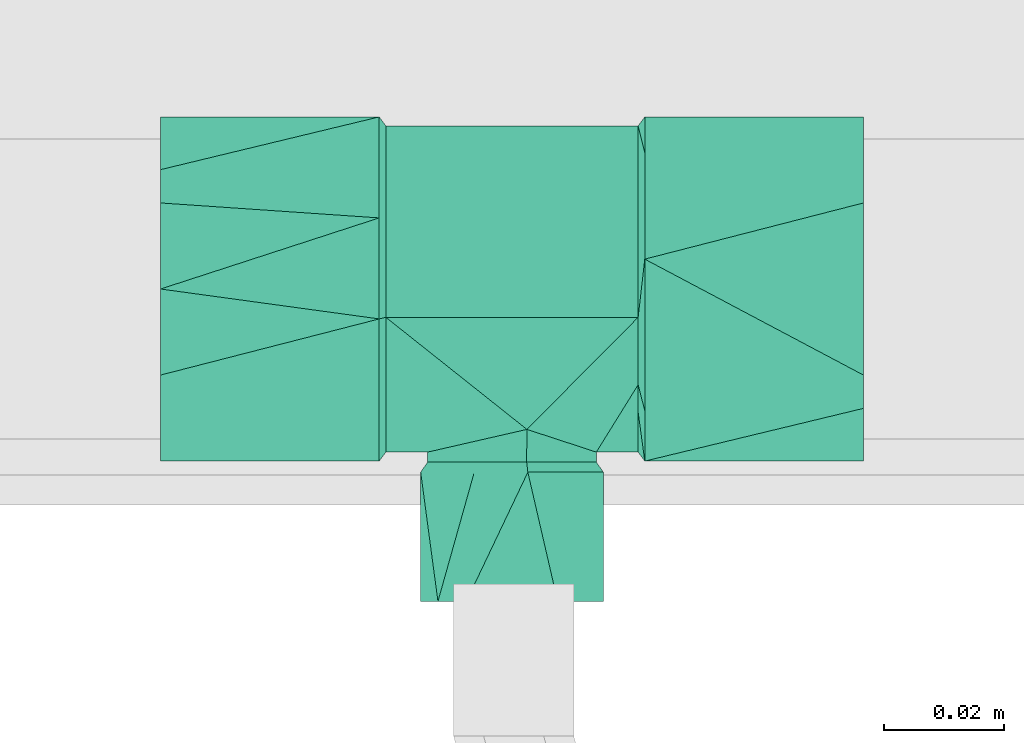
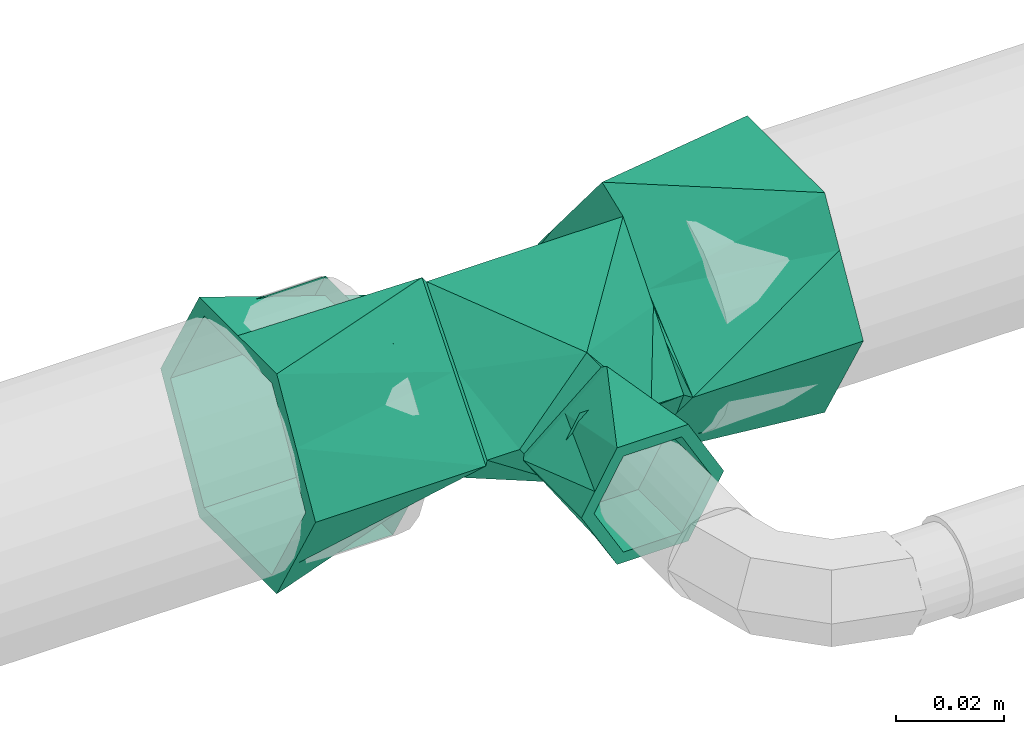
# One storey, part 75 of 166: 1 flow fitting.
"""IFC2X3 building model written with IfcOpenShell, lengths in metres."""

from ifc_helpers import new_model, entity, si_unit, converted_unit, direction, frame, origin, place, context, subcontext, project, spatial, faceted_brep, source, transform, mapped, material, type_object, type_shapes, element, save


model = new_model("IFC2X3")

# Units and contexts
model_context = context("Model", 3, precision=1e-05, world=origin(), true_north=direction((6.123233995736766e-17, 1.0)))
body_context = subcontext(model_context, "Body", "Model", "MODEL_VIEW")
ifc_project = project(units=[si_unit("LENGTHUNIT", "METRE"), converted_unit("PLANEANGLEUNIT", "DEGREE", entity("IfcPlaneAngleMeasure", 0.017453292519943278), si_unit("PLANEANGLEUNIT", "RADIAN"), dimensions=[0, 0, 0, 0, 0, 0, 0]), si_unit("AREAUNIT", "SQUARE_METRE")], contexts=[model_context])

# Site, building, storey
site_placement = place(None, origin())
site = spatial("IfcSite", under=ifc_project, at=site_placement, Name="Default", CompositionType="ELEMENT")
building_placement = place(site_placement, origin())
building = spatial("IfcBuilding", under=site, at=building_placement, Name="CASA DE ACOLHIDA PARA IDOSOS", CompositionType="ELEMENT")
storey_placement = place(building_placement, frame((0.0, 0.0, -1.7499999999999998)))
storey = spatial("IfcBuildingStorey", under=building, at=storey_placement, Name="IMPLANTAÇÃO DRENAGEM", CompositionType="ELEMENT", Elevation=-1.7499999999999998)

# Flow fitting
ifc_material = material(Name="PVC Branco")
pipe_fitting_type = type_object("IfcPipeFittingType", Name="AF_Roscavel_Te_Reducao:Standard", PredefinedType="NOTDEFINED", material=ifc_material)
shared_shape = source(origin(), body_context, "Body", "Brep", [
    faceted_brep([(-0.022099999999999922, 0.022730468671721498, -0.007053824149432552), (-0.022099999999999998, 0.028649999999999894, 0.0), (-0.021, 0.027149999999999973, 0.0), (-0.02099999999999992, 0.019184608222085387, -0.006684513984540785), (-0.020999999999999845, 0.011219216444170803, -0.013369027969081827), (-0.022099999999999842, 0.0168109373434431, -0.014107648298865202), (-0.020999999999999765, 0.0032538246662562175, -0.02005354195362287), (-0.022099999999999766, 0.010891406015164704, -0.02116147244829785), (-0.020999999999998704, -0.015930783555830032, -0.013369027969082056), (-0.022099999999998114, -0.020244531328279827, -0.007053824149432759), (-0.022099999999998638, -0.01183906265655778, -0.01410764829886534), (-0.020999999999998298, -0.02051095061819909, -0.007911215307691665), (-0.02209999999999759, -0.02865000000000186, 0.0), (-0.020999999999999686, -0.004711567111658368, -0.02673805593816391), (-0.02209999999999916, -0.0034335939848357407, -0.021161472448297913), (-0.022099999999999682, 0.004971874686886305, -0.028215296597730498), (-0.020999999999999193, -0.010321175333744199, -0.02005354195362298), (-0.02099999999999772, -0.027150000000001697, 0.0), (-0.02210000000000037, -0.022732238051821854, 0.007053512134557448), (-0.021000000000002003, -0.019182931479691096, 0.006684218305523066), (-0.021000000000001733, -0.011215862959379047, 0.013368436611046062), (-0.022100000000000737, -0.0168144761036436, 0.014107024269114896), (-0.021000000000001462, -0.0032487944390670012, 0.020052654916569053), (-0.022100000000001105, -0.010896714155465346, 0.021160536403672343), (-0.022100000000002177, 0.020242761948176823, 0.007053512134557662), (-0.02100000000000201, 0.021542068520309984, 0.006684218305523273), (-0.022100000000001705, 0.0034282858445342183, 0.021160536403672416), (-0.021000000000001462, 0.010326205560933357, 0.020052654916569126), (-0.022100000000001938, 0.01183552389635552, 0.014107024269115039), (-0.021000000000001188, 0.004718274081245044, 0.02673687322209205), (-0.022100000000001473, -0.004978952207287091, 0.028214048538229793), (-0.021000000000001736, 0.01593413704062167, 0.013368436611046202), (-0.02099999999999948, 0.018449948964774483, 0.010369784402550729), (0.021, 0.027149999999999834, 0.0), (0.021000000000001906, 0.004718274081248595, 0.026736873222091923), (0.021000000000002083, 0.010326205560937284, 0.02005265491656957), (0.021000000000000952, 0.015934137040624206, 0.013368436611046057), (0.021000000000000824, 0.020511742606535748, 0.007912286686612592), (0.021, -0.027150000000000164, 0.0), (0.0024774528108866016, -0.023369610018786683, 0.013819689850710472), (0.008258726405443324, -0.025259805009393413, 0.006909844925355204), (0.014040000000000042, -0.027150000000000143, 0.0), (-0.014039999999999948, -0.02715000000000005, 0.0), (-0.008913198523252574, -0.02597661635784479, 0.004289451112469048), (-0.0057812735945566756, -0.02525980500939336, 0.0069098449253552), (0.021000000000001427, -0.01918293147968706, 0.006684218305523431), (0.021000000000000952, -0.011215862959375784, 0.013368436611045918), (0.02100000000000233, -0.00324879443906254, 0.020052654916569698), (0.02099999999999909, 0.019607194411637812, -0.006329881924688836), (0.020999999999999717, 0.011219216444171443, -0.013369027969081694), (0.02099999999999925, 0.003253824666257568, -0.02005354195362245), (0.020999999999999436, -0.004711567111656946, -0.02673805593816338), (-0.0024814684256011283, -0.023370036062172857, -0.013818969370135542), (0.020999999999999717, -0.015930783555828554, -0.013369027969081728), (0.008912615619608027, -0.025976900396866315, -0.004288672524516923), (0.005779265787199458, -0.025260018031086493, -0.006909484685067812), (-0.00826073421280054, -0.025260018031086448, -0.006909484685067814), (0.020999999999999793, -0.020510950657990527, -0.007911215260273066), (0.020999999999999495, -0.010321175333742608, -0.020053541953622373), (0.02210000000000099, 0.01681093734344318, 0.014107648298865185), (0.022100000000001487, 0.01089140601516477, 0.021161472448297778), (0.022100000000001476, -0.012730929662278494, 0.013359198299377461), (0.022100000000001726, -0.003879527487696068, 0.020787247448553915), (0.022100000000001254, -0.020690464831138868, 0.006679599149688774), (0.022100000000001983, 0.004971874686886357, 0.02821529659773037), (0.0221, 0.028650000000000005, 0.0), (0.022100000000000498, 0.022730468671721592, 0.007053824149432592), (0.022100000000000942, -0.011839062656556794, 0.014107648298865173), (0.022100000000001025, -0.02864999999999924, 0.0), (0.022099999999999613, -0.009809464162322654, -0.022456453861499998), (0.022099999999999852, -0.021644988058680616, -0.008349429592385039), (0.02209999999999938, 0.0034282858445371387, -0.02116053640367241), (0.022099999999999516, -0.004978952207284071, -0.028214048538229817), (0.02209999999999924, 0.011835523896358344, -0.014107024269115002), (0.0220999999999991, 0.02024276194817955, -0.0070535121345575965), (0.02209999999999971, -0.014639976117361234, -0.01669885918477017), (0.022100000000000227, -0.016814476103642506, -0.014107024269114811), (-0.058500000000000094, -0.014325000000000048, -0.024811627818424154), (-0.058500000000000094, -0.025, 0.0), (-0.058500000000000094, -0.01997114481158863, -0.00871023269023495), (-0.0585000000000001, -0.019870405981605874, -0.015206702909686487), (-0.058500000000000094, -0.012500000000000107, -0.021650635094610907), (-0.058500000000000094, 0.0, -0.02165063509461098), (-0.058500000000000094, 0.012499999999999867, -0.021650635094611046), (-0.0585000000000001, 0.0, -0.024811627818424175), (-0.058500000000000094, -0.028650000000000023, 0.0), (-0.0585000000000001, -0.018750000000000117, 0.01082531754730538), (-0.058500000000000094, -0.012500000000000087, 0.021650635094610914), (-0.0585000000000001, -0.021487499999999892, 0.012405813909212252), (-0.058500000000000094, -0.014324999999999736, 0.02481162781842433), (-0.058500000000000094, 0.0, 0.021650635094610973), (-0.058500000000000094, 0.012499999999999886, 0.021650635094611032), (-0.0585000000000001, 0.0, 0.02481162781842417), (-0.058500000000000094, 0.014325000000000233, 0.024811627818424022), (-0.0585000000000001, 0.019870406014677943, 0.015206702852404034), (-0.058500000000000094, 0.02864999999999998, 0.0), (-0.058500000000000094, 0.019971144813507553, 0.00871023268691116), (-0.058500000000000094, 0.025, 0.0), (-0.0585000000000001, 0.021487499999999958, -0.012405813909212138), (-0.058500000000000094, 0.014324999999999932, -0.0248116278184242), (-0.058500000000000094, 0.018749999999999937, -0.010825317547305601), (0.0585000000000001, 0.021487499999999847, 0.012405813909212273), (0.058500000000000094, 0.028650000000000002, 0.0), (0.058500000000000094, -0.028650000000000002, 0.0), (0.0585000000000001, -0.01987040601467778, 0.015206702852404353), (0.0585000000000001, -0.021487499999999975, -0.012405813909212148), (0.0585000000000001, 0.019870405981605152, -0.015206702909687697), (0.058500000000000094, 0.014325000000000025, -0.024811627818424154), (0.058500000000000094, 0.024999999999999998, 0.0), (0.058500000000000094, 0.019971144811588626, -0.00871023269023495), (0.058500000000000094, 0.012500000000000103, -0.021650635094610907), (0.058500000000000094, 0.0, -0.02165063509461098), (0.058500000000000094, -0.012499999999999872, -0.021650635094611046), (0.0585000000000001, 0.0, -0.024811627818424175), (0.0585000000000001, 0.01875000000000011, 0.01082531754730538), (0.058500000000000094, 0.012500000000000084, 0.021650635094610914), (0.058500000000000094, 0.014324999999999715, 0.02481162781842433), (0.058500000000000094, 0.0, 0.021650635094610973), (0.058500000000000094, -0.012499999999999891, 0.021650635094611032), (0.0585000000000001, 0.0, 0.02481162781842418), (0.058500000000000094, -0.014325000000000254, 0.024811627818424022), (0.058500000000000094, -0.019971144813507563, 0.00871023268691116), (0.058500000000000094, -0.025000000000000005, 0.0), (0.058500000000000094, -0.014324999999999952, -0.0248116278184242), (0.058500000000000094, -0.018749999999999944, -0.010825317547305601), (-0.032600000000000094, -0.025, 0.0), (-0.032600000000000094, -0.019971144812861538, 0.00871023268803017), (-0.032600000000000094, -0.012500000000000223, 0.021650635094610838), (-0.032600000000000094, 0.0, 0.021650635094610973), (-0.032600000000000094, 0.012499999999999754, 0.02165063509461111), (-0.032600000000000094, 0.018749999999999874, 0.010825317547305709), (-0.032600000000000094, 0.025, 0.0), (-0.032600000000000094, 0.019971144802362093, -0.008710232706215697), (-0.032600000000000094, 0.012500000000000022, -0.021650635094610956), (-0.032600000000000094, 0.0, -0.02165063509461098), (-0.032600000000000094, -0.012499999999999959, -0.021650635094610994), (-0.032600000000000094, -0.018749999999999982, -0.010825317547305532), (0.03260000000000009, -0.025, 0.0), (0.032600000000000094, -0.018749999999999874, 0.010825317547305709), (0.032600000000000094, -0.012499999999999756, 0.02165063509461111), (0.032600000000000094, 0.0, 0.021650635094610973), (0.032600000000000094, 0.012500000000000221, 0.021650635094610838), (0.032600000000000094, 0.019971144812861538, 0.00871023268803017), (0.032600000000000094, 0.025, 0.0), (0.032600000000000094, 0.018749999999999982, -0.010825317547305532), (0.032600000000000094, 0.012499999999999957, -0.021650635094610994), (0.032600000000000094, 0.0, -0.02165063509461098), (0.032600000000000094, -0.012500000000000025, -0.021650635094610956), (0.032600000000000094, -0.019971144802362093, -0.008710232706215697), (0.012500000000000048, -0.03589999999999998, 0.0), (0.006250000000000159, -0.035899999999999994, 0.010825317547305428), (-0.0062499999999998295, -0.03590000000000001, 0.010825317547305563), (-0.012499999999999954, -0.03590000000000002, 0.0), (-0.006249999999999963, -0.03590000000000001, -0.010825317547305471), (0.006250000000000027, -0.035899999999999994, -0.01082531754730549), (0.012500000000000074, -0.05199999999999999, 0.0), (0.006250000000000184, -0.052, 0.010825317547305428), (-0.006249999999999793, -0.05200000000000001, 0.01082531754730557), (-0.01249999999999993, -0.052000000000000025, 0.0), (-0.006249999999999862, -0.05200000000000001, -0.010825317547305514), (0.006250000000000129, -0.052, -0.010825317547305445), (-0.011620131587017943, -0.028800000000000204, -0.0028835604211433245), (-0.01403999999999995, -0.02880000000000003, 0.0), (-0.002436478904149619, -0.028800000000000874, -0.013826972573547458), (-0.008238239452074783, -0.02880000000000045, -0.006913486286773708), (0.0030428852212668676, -0.028800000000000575, -0.009228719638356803), (0.014040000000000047, -0.02879999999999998, 0.0), (0.008541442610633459, -0.02880000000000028, -0.004614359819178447), (0.005801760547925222, -0.02880000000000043, -0.006913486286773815), (0.011620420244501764, -0.028799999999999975, 0.002883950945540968), (0.002439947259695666, -0.028799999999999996, 0.01382636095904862), (0.008239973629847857, -0.028799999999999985, 0.00691318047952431), (-0.0030421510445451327, -0.028800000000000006, 0.00922698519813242), (-0.008541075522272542, -0.028800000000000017, 0.004613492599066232), (-0.005800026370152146, -0.028800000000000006, 0.006913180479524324), (0.0026415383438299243, -0.030500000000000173, 0.01496870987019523), (0.008920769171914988, -0.03050000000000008, 0.007484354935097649), (0.010065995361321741, -0.030500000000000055, 0.006119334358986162), (0.015200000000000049, -0.03049999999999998, 0.0), (-0.015199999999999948, -0.03050000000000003, 0.0), (-0.006279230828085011, -0.0305000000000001, 0.007484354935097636), (-0.0026377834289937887, -0.030500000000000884, -0.01496937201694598), (-0.008918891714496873, -0.03050000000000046, -0.007484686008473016), (-0.010065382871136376, -0.030500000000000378, -0.006118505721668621), (0.006281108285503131, -0.03050000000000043, -0.007484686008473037), (0.007600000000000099, -0.052, -0.01316358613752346), (0.012327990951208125, -0.05199999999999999, -0.004974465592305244), (0.0, -0.052000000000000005, -0.01316358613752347), (0.015200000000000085, -0.051999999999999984, 0.0), (0.011400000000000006, -0.05199999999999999, 0.00658179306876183), (0.007599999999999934, -0.052, 0.013163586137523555), (0.0, -0.052000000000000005, 0.013163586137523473), (-0.007600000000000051, -0.05200000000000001, 0.01316358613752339), (-0.012327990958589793, -0.052000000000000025, 0.00497446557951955), (-0.015199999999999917, -0.05200000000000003, 0.0), (-0.011399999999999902, -0.052000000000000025, -0.006581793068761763), (-0.007599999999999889, -0.05200000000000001, -0.013163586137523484)], [[[0, 1, 2]], [[3, 4, 5]], [[6, 7, 4]], [[8, 9, 10]], [[11, 12, 9]], [[13, 14, 15]], [[14, 16, 10]], [[16, 14, 13]], [[2, 3, 0]], [[9, 8, 11]], [[11, 17, 12]], [[7, 6, 15]], [[6, 13, 15]], [[5, 4, 7]], [[16, 8, 10]], [[3, 5, 0]], [[18, 12, 17]], [[19, 20, 21]], [[22, 23, 20]], [[1, 24, 25]], [[25, 2, 1]], [[26, 27, 28]], [[29, 26, 30]], [[27, 26, 29]], [[17, 19, 18]], [[23, 22, 30]], [[24, 28, 31]], [[22, 29, 30]], [[21, 20, 23]], [[27, 31, 28]], [[19, 21, 18]], [[24, 31, 32, 25]], [[33, 2, 25, 32, 31, 27, 29, 34, 35, 36, 37]], [[38, 39, 40, 41]], [[20, 42, 43, 44, 39]], [[39, 38, 45, 46]], [[20, 39, 46]], [[34, 29, 22, 20, 46, 47]], [[42, 20, 19, 17]], [[4, 3, 2, 33, 48, 49, 50, 51, 13, 6]], [[51, 52, 13]], [[53, 41, 54, 55, 52]], [[8, 52, 56, 42]], [[42, 17, 11, 8]], [[41, 53, 57, 38]], [[52, 51, 58, 53]], [[52, 8, 16, 13]], [[36, 35, 59, 37]], [[34, 60, 35]], [[46, 45, 61]], [[47, 46, 62]], [[38, 63, 45]], [[64, 34, 47]], [[65, 33, 66]], [[60, 34, 64]], [[46, 61, 67, 62]], [[64, 47, 62]], [[33, 37, 66]], [[37, 59, 66]], [[63, 38, 68]], [[63, 61, 45]], [[60, 59, 35]], [[51, 69, 58]], [[68, 38, 70]], [[51, 71, 72]], [[73, 49, 74]], [[75, 53, 58]], [[33, 65, 48]], [[50, 73, 71]], [[53, 75, 76, 70]], [[48, 74, 49]], [[73, 50, 49]], [[51, 50, 71]], [[38, 57, 53, 70]], [[48, 65, 74]], [[69, 51, 72]], [[69, 75, 58]], [[77, 78, 79]], [[78, 77, 80]], [[77, 79, 81]], [[77, 81, 82]], [[77, 82, 83]], [[83, 84, 77]], [[78, 80, 85]], [[85, 86, 78]], [[85, 87, 86]], [[87, 85, 88]], [[87, 88, 89]], [[89, 90, 87]], [[89, 91, 90]], [[91, 89, 92]], [[91, 92, 93]], [[91, 93, 94]], [[91, 94, 95]], [[95, 96, 91]], [[95, 97, 96]], [[97, 95, 98]], [[97, 98, 99]], [[99, 83, 100]], [[83, 99, 84]], [[99, 100, 97]], [[28, 94, 93]], [[94, 28, 24, 1]], [[1, 95, 94]], [[65, 101, 102]], [[12, 88, 85]], [[68, 103, 104]], [[89, 21, 23, 30]], [[21, 89, 88]], [[88, 12, 18, 21]], [[92, 30, 26, 28]], [[30, 92, 89]], [[28, 93, 92]], [[10, 80, 77]], [[80, 10, 9, 12]], [[12, 85, 80]], [[68, 105, 103]], [[1, 98, 95]], [[65, 102, 106]], [[99, 5, 7, 15]], [[5, 99, 98]], [[98, 1, 0, 5]], [[15, 77, 84, 99]], [[77, 15, 14, 10]], [[107, 108, 109]], [[108, 107, 106]], [[107, 109, 110]], [[107, 110, 111]], [[107, 111, 112]], [[112, 113, 107]], [[108, 106, 102]], [[102, 114, 108]], [[102, 115, 114]], [[115, 102, 101]], [[115, 101, 116]], [[116, 117, 115]], [[116, 118, 117]], [[118, 116, 119]], [[118, 119, 120]], [[118, 120, 104]], [[118, 104, 103]], [[103, 121, 118]], [[103, 122, 121]], [[122, 103, 105]], [[122, 105, 123]], [[123, 112, 124]], [[112, 123, 113]], [[123, 124, 122]], [[67, 104, 120]], [[104, 67, 61, 63, 68]], [[116, 59, 60, 64]], [[59, 116, 101]], [[101, 65, 66, 59]], [[64, 120, 119, 116]], [[120, 64, 62, 67]], [[73, 106, 107]], [[106, 73, 74, 65]], [[123, 76, 75, 69, 72]], [[76, 123, 105]], [[105, 68, 70, 76]], [[113, 72, 71, 73]], [[72, 113, 123]], [[73, 107, 113]], [[125, 126, 127, 128, 129, 130, 131, 132, 133, 134, 135, 136]], [[87, 127, 126, 125, 78, 86]], [[137, 138, 139, 118, 121, 122]], [[129, 128, 127, 87, 90, 91]], [[139, 140, 141, 115, 117, 118]], [[131, 130, 129, 91, 96, 97]], [[115, 141, 142, 143, 108, 114]], [[83, 133, 132, 131, 97, 100]], [[143, 144, 145, 110, 109, 108]], [[135, 134, 133, 83, 82, 81]], [[145, 146, 147, 112, 111, 110]], [[125, 136, 135, 81, 79, 78]], [[112, 147, 148, 137, 122, 124]], [[143, 142, 141, 140, 139, 138, 137, 148, 147, 146, 145, 144]], [[149, 150, 151, 152, 153, 154]], [[155, 156, 150, 149]], [[156, 157, 151, 150]], [[157, 158, 152, 151]], [[158, 159, 153, 152]], [[159, 160, 154, 153]], [[160, 155, 149, 154]], [[42, 161, 162]], [[56, 163, 164, 161]], [[163, 56, 52]], [[165, 163, 52]], [[166, 167, 41]], [[55, 167, 168, 165]], [[55, 54, 41, 167]], [[165, 52, 55]], [[56, 161, 42]], [[41, 169, 166]], [[40, 170, 171, 169]], [[170, 40, 39]], [[172, 170, 39]], [[162, 173, 42]], [[44, 173, 174, 172]], [[44, 43, 42, 173]], [[172, 39, 44]], [[40, 169, 41]], [[175, 176, 177, 178, 166, 169, 171, 170]], [[170, 172, 174, 173, 162, 179, 180, 175]], [[181, 182, 183, 179, 162, 161, 164, 163]], [[163, 165, 168, 167, 166, 178, 184, 181]], [[185, 155, 160]], [[155, 185, 186]], [[185, 160, 159]], [[159, 187, 185]], [[155, 186, 188]], [[156, 155, 188]], [[156, 188, 189]], [[156, 189, 190]], [[156, 190, 157]], [[157, 190, 191]], [[157, 191, 192]], [[157, 192, 193]], [[157, 193, 194]], [[194, 158, 157]], [[158, 194, 195]], [[158, 195, 196]], [[196, 159, 158]], [[159, 196, 187]], [[180, 193, 192]], [[180, 179, 193]], [[179, 194, 193]], [[178, 189, 188]], [[175, 190, 176]], [[176, 190, 189]], [[189, 178, 177, 176]], [[180, 191, 175]], [[175, 191, 190]], [[180, 192, 191]], [[184, 186, 185]], [[184, 178, 186]], [[178, 188, 186]], [[179, 195, 194]], [[181, 196, 182]], [[182, 196, 195]], [[195, 179, 183, 182]], [[181, 185, 187, 196]], [[181, 184, 185]]]),
])
type_shapes(pipe_fitting_type, [shared_shape])
flow_fitting_placement = place(storey_placement, frame((-31.9909488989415, -16.745057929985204, -0.19999999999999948), z_axis=(0.0, 0.0, -1.0), x_axis=(-1.0, 0.0, 0.0)))
element("IfcFlowFitting", 1, at=flow_fitting_placement, inside=storey, type_object=pipe_fitting_type, material=ifc_material, Name="AF_Roscavel_Te_Reducao:Standard", ObjectType="AF_Roscavel_Te_Reducao:Standard", context=body_context, shape_type="MappedRepresentation", body=[
    mapped(shared_shape, transform((0.0, 0.0, 0.0), scale=1.0)),
])

save(model, "model.ifc")
